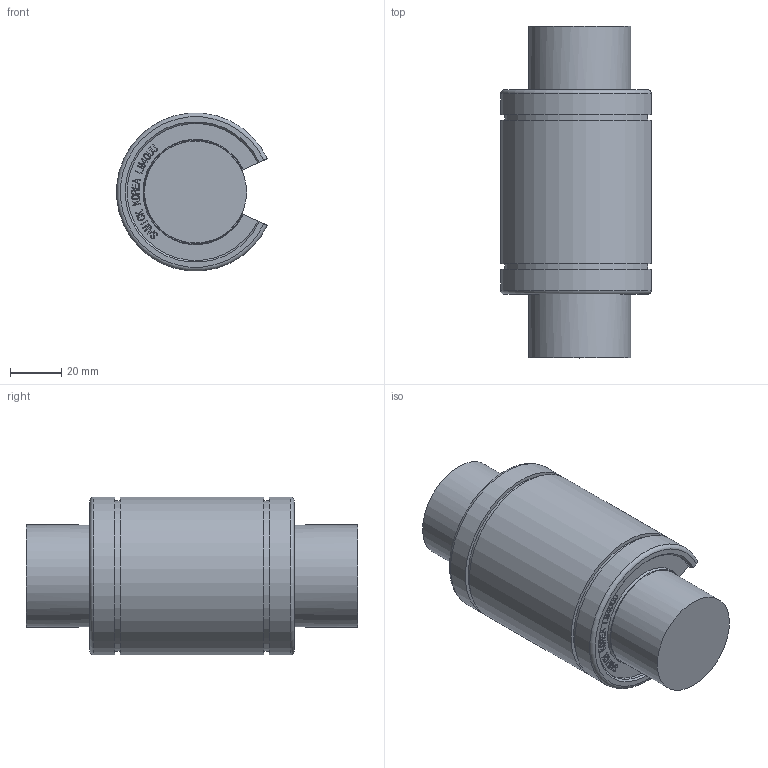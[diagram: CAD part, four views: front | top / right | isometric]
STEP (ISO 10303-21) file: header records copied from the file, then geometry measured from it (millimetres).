
FILE_DESCRIPTION(/* description */ (''),/* implementation_level */ '2;1');
FILE_NAME(/* name */ 'W:\(01) 2024년 홈페이지 CAD파일 최신화\LME_OP\IPT\LME40UUOP.stp',/* time_stamp */ '2025-01-25T10:18:37+09:00',/* author */ ('서우현'),/* organization */ (''),/* preprocessor_version */ 'ST-DEVELOPER v17.2',/* originating_system */ 'Autodesk Inventor 2019',/* authorisation */ '');
FILE_SCHEMA (('AUTOMOTIVE_DESIGN { 1 0 10303 214 3 1 1 }'));
Length unit declared in the file: millimetre
Products named in the file (1): LM5
Bounding box: 58.98 x 130 x 61.76 mm (x, y, z)
Volume: 280328.7 mm3; surface area: 29909.9 mm2
Topology: 1 solids, 1 shells, 828 faces, 2340 edges, 1560 vertices
Faces by surface type: bspline 572, plane 242, cylinder 8, cone 4, torus 2
Full cylindrical faces by diameter (mm): 40 x1
Entity records: 28238 total; most frequent: CARTESIAN_POINT 9877, ORIENTED_EDGE 4680, EDGE_CURVE 2340, DIRECTION 1742, VERTEX_POINT 1560, LINE 1164, VECTOR 1164, B_SPLINE_CURVE_WITH_KNOTS 1144
